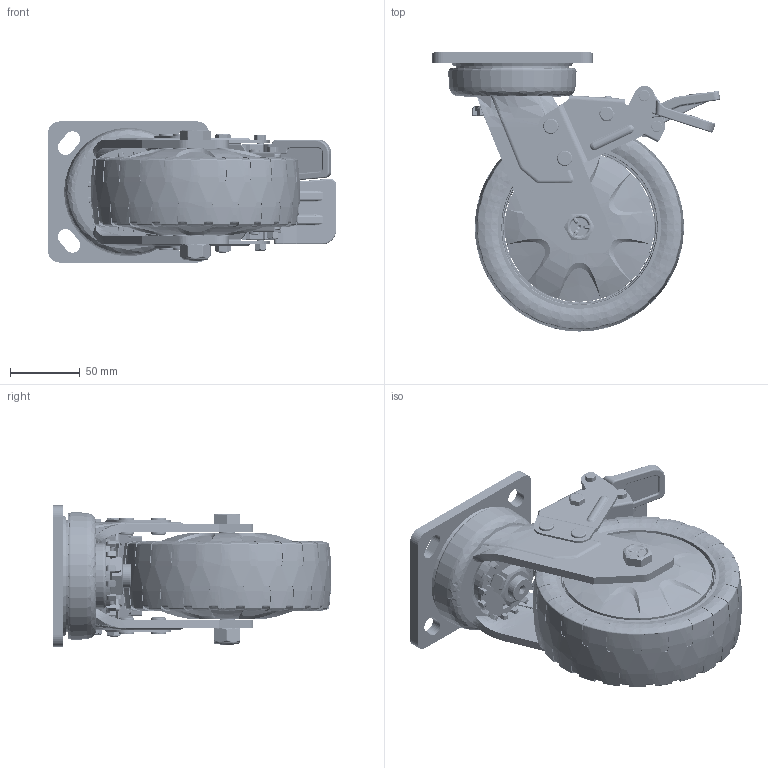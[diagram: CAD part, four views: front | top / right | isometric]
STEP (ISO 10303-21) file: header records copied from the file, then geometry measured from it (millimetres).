
FILE_DESCRIPTION (( 'STEP AP214' ), '1' );
FILE_NAME ('J17-01D-150-352.STEP', '2025-10-01T09:51:34', ( '' ), ( '' ), 'SwSTEP 2.0', 'SolidWorks 2022', '' );
FILE_SCHEMA (( 'AUTOMOTIVE_DESIGN' ));
Length unit declared in the file: millimetre
Products named in the file (1): J17-01D-150-352
Bounding box: 206.18 x 199.73 x 101 mm (x, y, z)
Volume: 992321.7 mm3; surface area: 495574 mm2
Topology: 95 solids, 95 shells, 4920 faces, 13711 edges, 8680 vertices
Faces by surface type: plane 1764, cylinder 1452, bspline 1293, cone 411
Entity records: 280053 total; most frequent: CARTESIAN_POINT 116241, ORIENTED_EDGE 26742, DIRECTION 17060, EDGE_CURVE 13371, VERTEX_POINT 8680, AXIS2_PLACEMENT_3D 6559, B_SPLINE_CURVE_WITH_KNOTS 6017, EDGE_LOOP 5199
